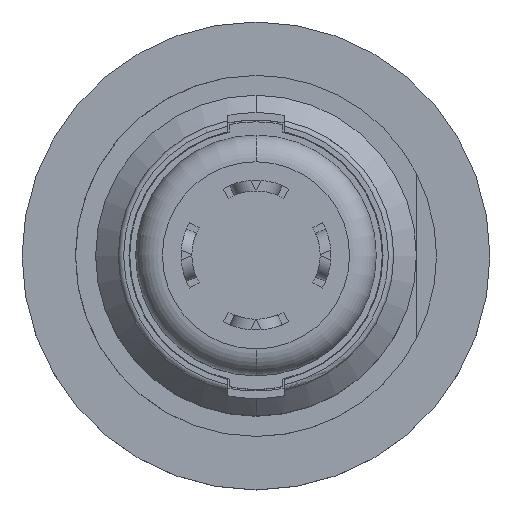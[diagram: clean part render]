
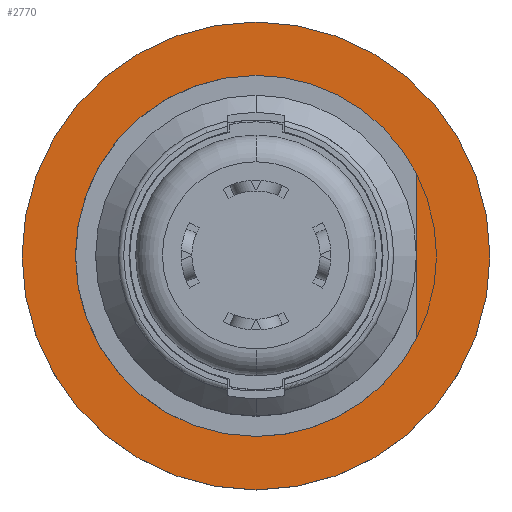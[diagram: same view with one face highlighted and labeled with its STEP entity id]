
A CAD part, top view. The second image highlights one B-rep face of the part: STEP entity #2770.
In plain terms, the highlighted planar face has unit normal (0, 0, 1).
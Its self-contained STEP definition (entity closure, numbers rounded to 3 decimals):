
#396=CARTESIAN_POINT('',(0.,0.,0.));
#397=DIRECTION('',(0.,0.,-1.));
#398=DIRECTION('',(0.,1.,0.));
#399=AXIS2_PLACEMENT_3D('',#396,#397,#398);
#401=CARTESIAN_POINT('',(0.,0.,0.));
#402=DIRECTION('',(0.,0.,-1.));
#403=DIRECTION('',(0.,-1.,0.));
#404=AXIS2_PLACEMENT_3D('',#401,#402,#403);
#1986=CARTESIAN_POINT('',(0.,8.75,0.));
#1987=CARTESIAN_POINT('',(0.,-8.75,0.));
#1988=VERTEX_POINT('',#1986);
#1989=VERTEX_POINT('',#1987);
#2759=CARTESIAN_POINT('',(0.,0.,0.));
#2760=DIRECTION('',(0.,0.,1.));
#2761=DIRECTION('',(0.,1.,0.));
#2762=AXIS2_PLACEMENT_3D('',#2759,#2760,#2761);
#2763=PLANE('',#2762);
#2765=ORIENTED_EDGE('',*,*,#2764,.T.);
#2767=ORIENTED_EDGE('',*,*,#2766,.T.);
#2768=EDGE_LOOP('',(#2765,#2767));
#2769=FACE_OUTER_BOUND('',#2768,.F.);
#2770=ADVANCED_FACE('',(#2769),#2763,.T.);
#400=CIRCLE('',#399,8.75);
#405=CIRCLE('',#404,8.75);
#2764=EDGE_CURVE('',#1988,#1989,#400,.T.);
#2766=EDGE_CURVE('',#1989,#1988,#405,.T.);
